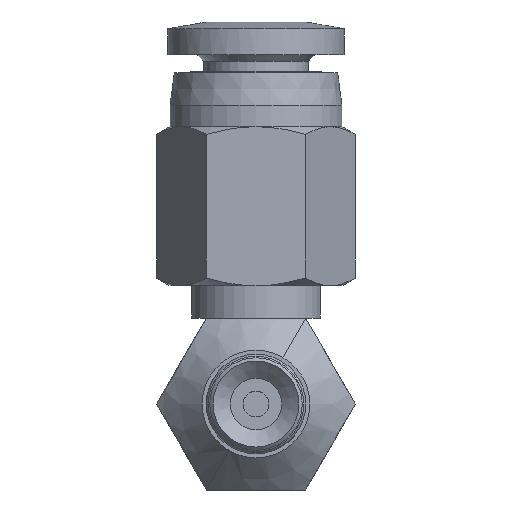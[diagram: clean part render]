
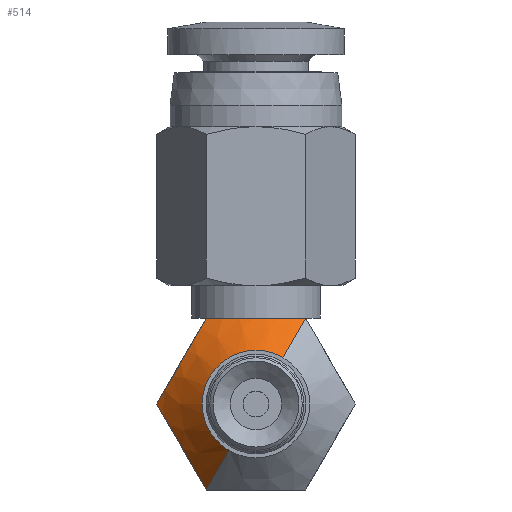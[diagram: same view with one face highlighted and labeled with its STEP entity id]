
A CAD part, front view. The second image highlights one B-rep face of the part: STEP entity #514.
In plain terms, the highlighted conical face has half-angle 45 degrees and reference radius 2.5 mm.
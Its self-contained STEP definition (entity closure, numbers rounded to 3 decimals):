
#514=ADVANCED_FACE('',(#756),#757,.T.);
#756=FACE_OUTER_BOUND('',#1166,.T.);
#757=CONICAL_SURFACE('',#1167,2.5,0.785);
#1166=EDGE_LOOP('',(#2096,#2097,#2098,#2099,#2100,#2101));
#1167=AXIS2_PLACEMENT_3D('',#2102,#2103,#2104);
#2096=ORIENTED_EDGE('',*,*,#3003,.F.);
#2097=ORIENTED_EDGE('',*,*,#3004,.T.);
#2098=ORIENTED_EDGE('',*,*,#3005,.F.);
#2099=ORIENTED_EDGE('',*,*,#3006,.F.);
#2100=ORIENTED_EDGE('',*,*,#2999,.F.);
#2101=ORIENTED_EDGE('',*,*,#3007,.F.);
#2102=CARTESIAN_POINT('',(0.0,0.,0.0));
#2103=DIRECTION('',(-0.0,1.0,0.0));
#2104=DIRECTION('',(0.866,0.0,-0.5));
#2999=EDGE_CURVE('',#3433,#3434,#3435,.T.);
#3003=EDGE_CURVE('',#3440,#3441,#3442,.T.);
#3004=EDGE_CURVE('',#3440,#3369,#3443,.T.);
#3005=EDGE_CURVE('',#3444,#3369,#3445,.T.);
#3006=EDGE_CURVE('',#3434,#3444,#3446,.T.);
#3007=EDGE_CURVE('',#3441,#3433,#3447,.T.);
#3369=VERTEX_POINT('',#4044);
#3433=VERTEX_POINT('',#4167);
#3434=VERTEX_POINT('',#4168);
#3435=B_SPLINE_CURVE_WITH_KNOTS('',3,(#4169,#4170,#4171,#4172,#4173,#4174,#4175,#4176,#4177,#4178,#4179,#4180),.UNSPECIFIED.,.F.,.F.,(4,2,2,2,2,4),(0.0,0.001,0.002,0.002,0.004,0.005),.UNSPECIFIED.);
#3440=VERTEX_POINT('',#4190);
#3441=VERTEX_POINT('',#4191);
#3442=CIRCLE('',#4192,2.5);
#3443=LINE('',#4193,#4194);
#3444=VERTEX_POINT('',#4195);
#3445=B_SPLINE_CURVE_WITH_KNOTS('',3,(#4196,#4197,#4198,#4199,#4200,#4201,#4202,#4203,#4204,#4205,#4206,#4207),.UNSPECIFIED.,.F.,.F.,(4,2,2,2,2,4),(0.0,0.001,0.002,0.002,0.004,0.005),.UNSPECIFIED.);
#3446=B_SPLINE_CURVE_WITH_KNOTS('',3,(#4208,#4209,#4210,#4211,#4212,#4213,#4214,#4215,#4216,#4217,#4218,#4219),.UNSPECIFIED.,.F.,.F.,(4,2,2,2,2,4),(0.,0.001,0.002,0.002,0.004,0.005),.UNSPECIFIED.);
#3447=LINE('',#4220,#4221);
#4044=CARTESIAN_POINT('',(2.309,2.119,4.0));
#4167=CARTESIAN_POINT('',(-2.309,2.119,-4.0));
#4168=CARTESIAN_POINT('',(-4.619,2.119,0.));
#4169=CARTESIAN_POINT('',(-2.309,2.119,-4.0));
#4170=CARTESIAN_POINT('',(-2.49,1.938,-3.687));
#4171=CARTESIAN_POINT('',(-2.674,1.785,-3.368));
#4172=CARTESIAN_POINT('',(-2.961,1.621,-2.871));
#4173=CARTESIAN_POINT('',(-3.058,1.577,-2.703));
#4174=CARTESIAN_POINT('',(-3.257,1.517,-2.359));
#4175=CARTESIAN_POINT('',(-3.359,1.5,-2.182));
#4176=CARTESIAN_POINT('',(-3.661,1.499,-1.658));
#4177=CARTESIAN_POINT('',(-3.86,1.56,-1.315));
#4178=CARTESIAN_POINT('',(-4.25,1.782,-0.638));
#4179=CARTESIAN_POINT('',(-4.437,1.937,-0.314));
#4180=CARTESIAN_POINT('',(-4.619,2.119,0.));
#4190=CARTESIAN_POINT('',(1.25,0.,2.165));
#4191=CARTESIAN_POINT('',(-1.25,0.,-2.165));
#4192=AXIS2_PLACEMENT_3D('',#5095,#5096,#5097);
#4193=CARTESIAN_POINT('',(1.78,1.059,3.083));
#4194=VECTOR('',#5098,1.0);
#4195=CARTESIAN_POINT('',(-2.309,2.119,4.0));
#4196=CARTESIAN_POINT('',(-2.309,2.119,4.0));
#4197=CARTESIAN_POINT('',(-1.949,1.938,4.0));
#4198=CARTESIAN_POINT('',(-1.58,1.785,4.0));
#4199=CARTESIAN_POINT('',(-1.006,1.621,4.0));
#4200=CARTESIAN_POINT('',(-0.812,1.577,4.0));
#4201=CARTESIAN_POINT('',(-0.415,1.517,4.0));
#4202=CARTESIAN_POINT('',(-0.21,1.5,4.0));
#4203=CARTESIAN_POINT('',(0.395,1.499,4.0));
#4204=CARTESIAN_POINT('',(0.791,1.56,4.0));
#4205=CARTESIAN_POINT('',(1.573,1.782,4.0));
#4206=CARTESIAN_POINT('',(1.946,1.937,4.0));
#4207=CARTESIAN_POINT('',(2.309,2.119,4.0));
#4208=CARTESIAN_POINT('',(-4.619,2.119,0.0));
#4209=CARTESIAN_POINT('',(-4.438,1.938,0.313));
#4210=CARTESIAN_POINT('',(-4.254,1.785,0.632));
#4211=CARTESIAN_POINT('',(-3.967,1.621,1.129));
#4212=CARTESIAN_POINT('',(-3.87,1.577,1.297));
#4213=CARTESIAN_POINT('',(-3.671,1.517,1.641));
#4214=CARTESIAN_POINT('',(-3.569,1.5,1.818));
#4215=CARTESIAN_POINT('',(-3.267,1.499,2.342));
#4216=CARTESIAN_POINT('',(-3.069,1.56,2.685));
#4217=CARTESIAN_POINT('',(-2.678,1.782,3.362));
#4218=CARTESIAN_POINT('',(-2.491,1.937,3.686));
#4219=CARTESIAN_POINT('',(-2.309,2.119,4.0));
#4220=CARTESIAN_POINT('',(-1.78,1.059,-3.083));
#4221=VECTOR('',#5099,1.0);
#5095=CARTESIAN_POINT('',(0.0,0.,0.0));
#5096=DIRECTION('',(0.0,-1.0,0.0));
#5097=DIRECTION('',(0.0,0.0,-1.0));
#5098=DIRECTION('',(0.354,0.707,0.612));
#5099=DIRECTION('',(-0.354,0.707,-0.612));
